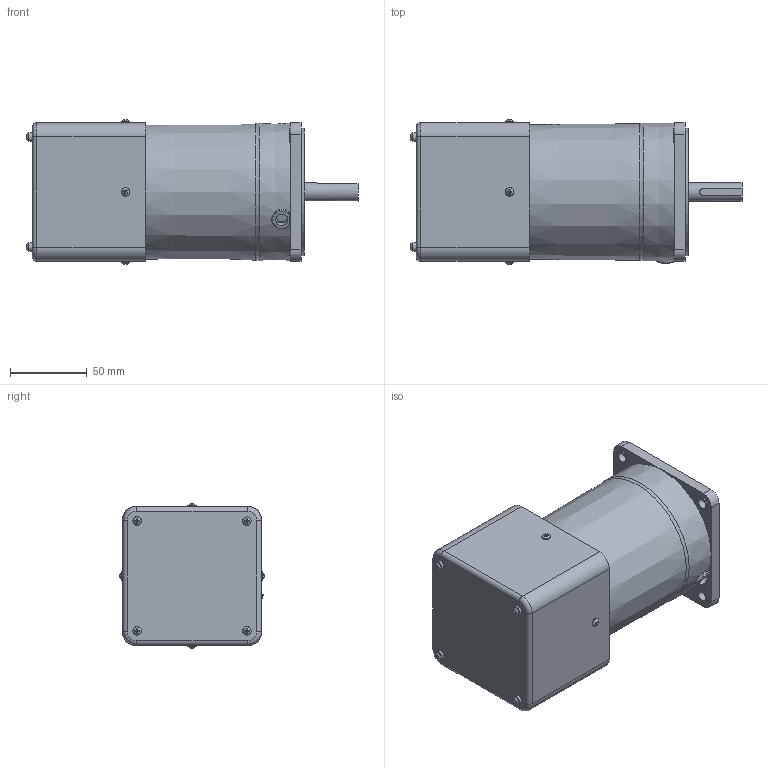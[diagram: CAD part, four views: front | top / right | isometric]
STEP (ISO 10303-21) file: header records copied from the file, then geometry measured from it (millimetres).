
FILE_DESCRIPTION((''),'2;1');
FILE_NAME('D:\STP파일\90W MOTOR\SPEED CONTROL\S9I90K-S.stp','2013-05-20T18:48:30',('leebh'),(''),'Autodesk Inventor 2011','Autodesk Inventor 2011','');
FILE_SCHEMA(('AUTOMOTIVE_DESIGN { 1 0 10303 214 1 1 1 1 }'));
Length unit declared in the file: millimetre
Products named in the file (1): S9I90G-T1
Bounding box: 215.75 x 93.89 x 93.89 mm (x, y, z)
Volume: 965913.8 mm3; surface area: 105511.5 mm2
Topology: 1 solids, 7 shells, 286 faces, 688 edges, 444 vertices
Faces by surface type: plane 176, cylinder 70, torus 26, bspline 8, cone 6
Full cylindrical faces by diameter (mm): 3 x8, 4.5 x4, 5.6 x12, 6.5 x4, 8 x1, 9.5 x4, 10 x1, 12 x1, 40 x1, 83 x1
Entity records: 8690 total; most frequent: CARTESIAN_POINT 2245, DIRECTION 1235, ORIENTED_EDGE 1210, EDGE_CURVE 605, AXIS2_PLACEMENT_3D 454, VERTEX_POINT 430, EDGE_LOOP 401, VECTOR 327
